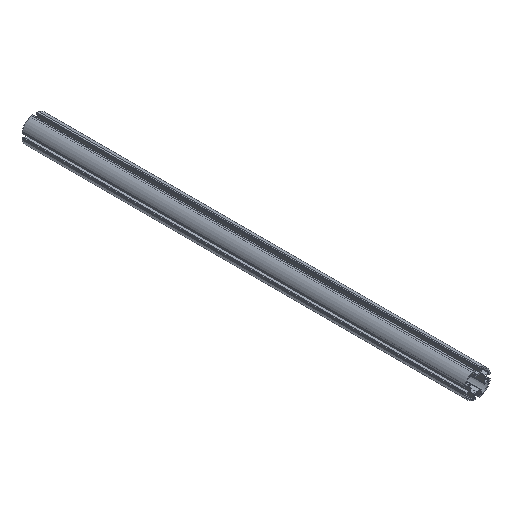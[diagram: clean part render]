
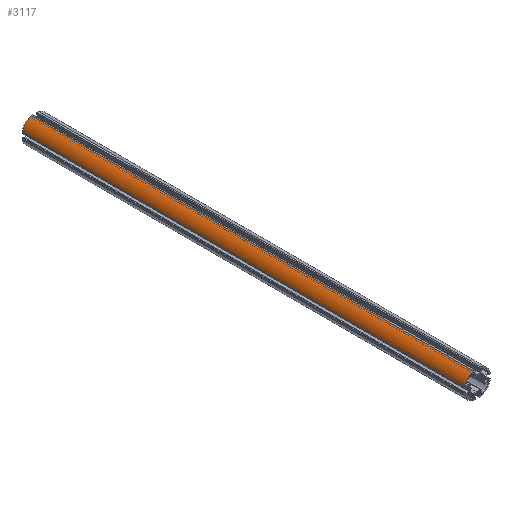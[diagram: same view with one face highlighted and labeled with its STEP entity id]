
A CAD part, isometric view. The second image highlights one B-rep face of the part: STEP entity #3117.
In plain terms, the highlighted cylindrical face has radius 30.15 mm (diameter 60.3 mm), a partial arc.
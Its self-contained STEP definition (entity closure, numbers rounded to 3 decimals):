
#15 = CIRCLE ( 'NONE', #1532, 30.15 ) ;
#141 = LINE ( 'NONE', #589, #142 ) ;
#142 = VECTOR ( 'NONE', #572, 1000. ) ;
#143 = CIRCLE ( 'NONE', #1749, 30.15 ) ;
#394 = FACE_OUTER_BOUND ( 'NONE', #2685, .T. ) ;
#395 = CYLINDRICAL_SURFACE ( 'NONE', #1541, 30.15 ) ;
#537 = DIRECTION ( 'NONE',  ( 0., 0., -1. ) ) ;
#552 = CARTESIAN_POINT ( 'NONE',  ( 0., 1000., 0. ) ) ;
#556 = DIRECTION ( 'NONE',  ( 0., -1., 0. ) ) ;
#572 = DIRECTION ( 'NONE',  ( 0., -1., 0. ) ) ;
#587 = DIRECTION ( 'NONE',  ( 0., 0., 1. ) ) ;
#588 = DIRECTION ( 'NONE',  ( 0., 1., 0. ) ) ;
#589 = CARTESIAN_POINT ( 'NONE',  ( -8.248, 1000., 29. ) ) ;
#605 = CARTESIAN_POINT ( 'NONE',  ( 0., 0., 0. ) ) ;
#790 = CARTESIAN_POINT ( 'NONE',  ( 0., 1000., 0. ) ) ;
#817 = DIRECTION ( 'NONE',  ( 0., 1., 0. ) ) ;
#929 = CARTESIAN_POINT ( 'NONE',  ( -8.248, 1000., 29. ) ) ;
#994 = CARTESIAN_POINT ( 'NONE',  ( -29., 1000., 8.248 ) ) ;
#1061 = DIRECTION ( 'NONE',  ( 0., -1., 0. ) ) ;
#1072 = VERTEX_POINT ( 'NONE', #1417 ) ;
#1106 = VERTEX_POINT ( 'NONE', #1138 ) ;
#1138 = CARTESIAN_POINT ( 'NONE',  ( -29., 0., 8.248 ) ) ;
#1177 = VERTEX_POINT ( 'NONE', #929 ) ;
#1266 = VERTEX_POINT ( 'NONE', #1271 ) ;
#1271 = CARTESIAN_POINT ( 'NONE',  ( -8.248, 0., 29. ) ) ;
#1417 = CARTESIAN_POINT ( 'NONE',  ( -29., 1000., 8.248 ) ) ;
#1477 = DIRECTION ( 'NONE',  ( 0., 0., 1. ) ) ;
#1532 = AXIS2_PLACEMENT_3D ( 'NONE', #790, #817, #1477 ) ;
#1541 = AXIS2_PLACEMENT_3D ( 'NONE', #552, #556, #537 ) ;
#1702 = EDGE_CURVE ( 'NONE', #1072, #1106, #2425, .T. ) ;
#1749 = AXIS2_PLACEMENT_3D ( 'NONE', #605, #588, #587 ) ;
#2183 = EDGE_CURVE ( 'NONE', #1072, #1177, #15, .T. ) ;
#2256 = EDGE_CURVE ( 'NONE', #1177, #1266, #141, .T. ) ;
#2257 = EDGE_CURVE ( 'NONE', #1106, #1266, #143, .T. ) ;
#2425 = LINE ( 'NONE', #994, #2460 ) ;
#2460 = VECTOR ( 'NONE', #1061, 1000. ) ;
#2685 = EDGE_LOOP ( 'NONE', ( #2763, #2780, #2744, #2756 ) ) ;
#2744 = ORIENTED_EDGE ( 'NONE', *, *, #2183, .F. ) ;
#2756 = ORIENTED_EDGE ( 'NONE', *, *, #1702, .T. ) ;
#2763 = ORIENTED_EDGE ( 'NONE', *, *, #2257, .T. ) ;
#2780 = ORIENTED_EDGE ( 'NONE', *, *, #2256, .F. ) ;
#3117 = ADVANCED_FACE ( 'NONE', ( #394 ), #395, .T. ) ;
